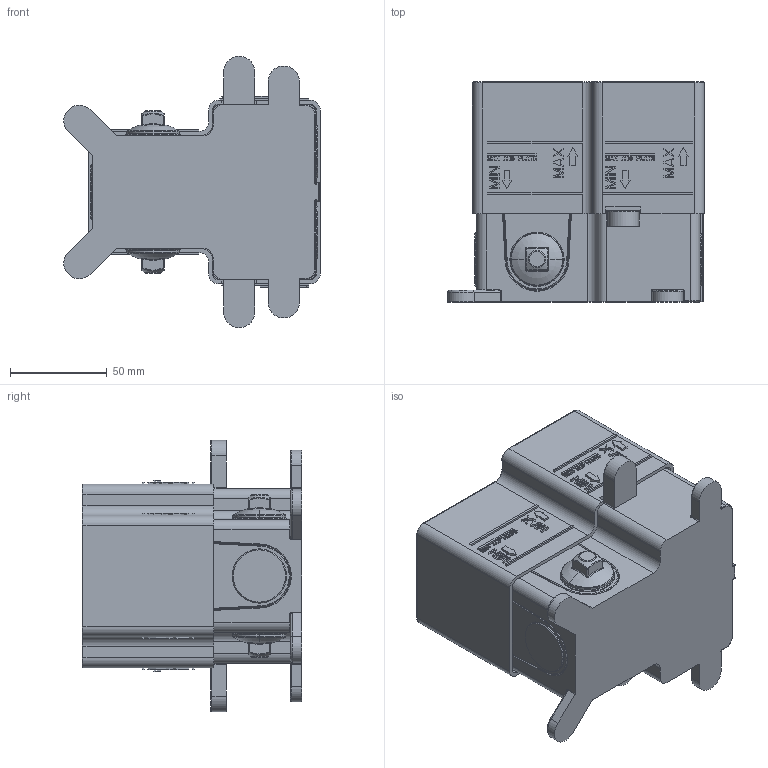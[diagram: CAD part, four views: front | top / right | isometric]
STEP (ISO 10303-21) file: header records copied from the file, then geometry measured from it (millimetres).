
FILE_DESCRIPTION((''),'2;1');
FILE_NAME('98011','2020-07-17T09:46:05',('volponeff'),(''),'CREO PARAMETRIC BY PTC INC, 2018100','CREO PARAMETRIC BY PTC INC, 2018100','');
FILE_SCHEMA(('CONFIG_CONTROL_DESIGN'));
Products named in the file (1): 98011
Bounding box: 132.33 x 113.5 x 140 mm (x, y, z)
Volume: 850890.5 mm3; surface area: 148659.5 mm2
Topology: 25 solids, 32 shells, 2776 faces, 6947 edges, 4318 vertices
Faces by surface type: plane 1549, cylinder 577, bspline 245, torus 167, cone 122, sphere 116
Entity records: 152774 total; most frequent: CARTESIAN_POINT 88335, ORIENTED_EDGE 13870, DIRECTION 12604, EDGE_CURVE 6935, VECTOR 4484, LINE 4484, VERTEX_POINT 4318, AXIS2_PLACEMENT_3D 4060
